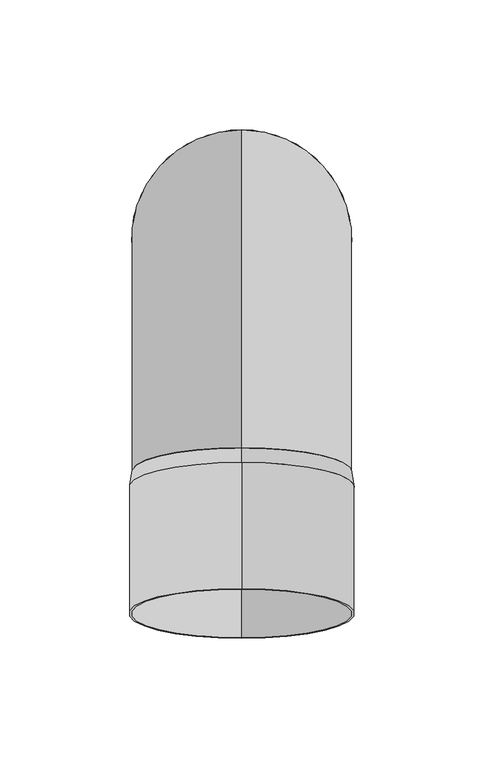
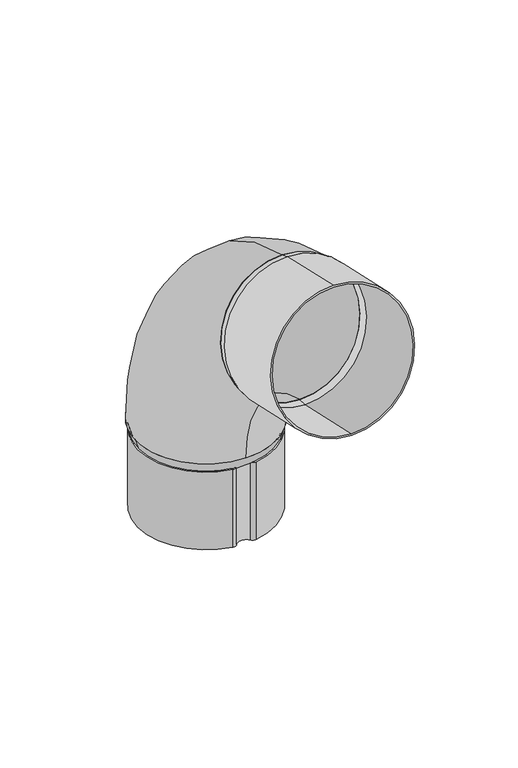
"""IFC4 building model written with IfcOpenShell, lengths in millimetres: proxy geometry, GROVIK_Downpipe_Elbow : N85_75°_Up."""

from ifc_helpers import new_model, si_unit, point, frame, frame_2d, origin, origin_with_axes, origin_2d, place, context, project, spatial, polyline, circle_curve, ellipse_curve, trimmed, segment, composite_curve, outline, extrude, source, transform, mapped, element, save
from ifc_brep_helpers import plane_surface, revolved_surface, advanced_brep


def generic_models_f47eed7d(model_context):
    return source(origin(), model_context, "Body", "SolidModel", [
        advanced_brep(
        [(0.0, 42.5, 0.0), (0.0, -42.5, 0.0), (0.0, 41.5, 0.0), (0.0, -41.5, 0.0), (0.0, -80.35, 153.6412298), (0.0, -99.05, 70.7237407), (0.0, -80.57, 152.6657299), (0.0, -98.83, 71.6992406)],
        [
            (0, 1, circle_curve(frame((0.0, 0.0, 0.0), z_axis=(0.0, 0.0, -1.0), x_axis=(0.0, -1.0, 0.0)), 42.5)),
            (1, 0, circle_curve(frame((0.0, 0.0, 0.0), z_axis=(0.0, 0.0, -1.0), x_axis=(0.0, -1.0, 0.0)), 42.5)),
            (2, 3, circle_curve(frame((0.0, 0.0, 0.0), z_axis=(0.0, 0.0, 1.0), x_axis=(0.0, -1.0, 0.0)), 41.5)),
            (3, 2, circle_curve(frame((0.0, 0.0, 0.0), z_axis=(0.0, 0.0, 1.0), x_axis=(0.0, -1.0, 0.0)), 41.5)),
            (4, 5, circle_curve(frame((0.0, -89.7, 112.1824853), z_axis=(0.0, -0.9754998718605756, 0.22000000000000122), x_axis=(0.0, -0.22000000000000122, -0.9754998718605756)), 42.5)),
            (5, 4, circle_curve(frame((0.0, -89.7, 112.1824853), z_axis=(0.0, -0.9754998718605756, 0.22000000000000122), x_axis=(0.0, -0.22000000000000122, -0.9754998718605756)), 42.5)),
            (6, 7, circle_curve(frame((0.0, -89.7, 112.1824853), z_axis=(0.0, 0.9754998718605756, -0.22000000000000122), x_axis=(0.0, -0.22000000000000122, -0.9754998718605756)), 41.5)),
            (7, 6, circle_curve(frame((0.0, -89.7, 112.1824853), z_axis=(0.0, 0.9754998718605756, -0.22000000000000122), x_axis=(0.0, -0.22000000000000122, -0.9754998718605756)), 41.5)),
            (7, 3, circle_curve(frame((0.0, -115.0, 0.0), z_axis=(-1.0, 0.0, 0.0), x_axis=(0.0, 1.0, 0.0)), 73.5)),
            (2, 6, circle_curve(frame((0.0, -115.0, 0.0), z_axis=(1.0, 0.0, 0.0), x_axis=(0.0, 1.0, 0.0)), 156.5)),
            (5, 1, circle_curve(frame((0.0, -115.0, 0.0), z_axis=(-1.0, 0.0, 0.0), x_axis=(0.0, 1.0, 0.0)), 72.5)),
            (0, 4, circle_curve(frame((0.0, -115.0, 0.0), z_axis=(1.0, 0.0, 0.0), x_axis=(0.0, 1.0, 0.0)), 157.5)),
        ],
        [
            plane_surface(frame((0.0, 0.0, 0.0), z_axis=(0.0, 0.0, -1.0), x_axis=(1.0, 0.0, 0.0))),
            plane_surface(frame((0.0, -89.7, 112.1824853), z_axis=(0.0, -0.9754998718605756, 0.22000000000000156), x_axis=(1.0, 0.0, 0.0))),
            revolved_surface(trimmed(ellipse_curve(frame((0.0, 0.0, 0.0), z_axis=(0.0, 0.0, 1.0), x_axis=(0.0, -1.0, 0.0)), 41.5, 41.5), [point((0.0, 41.5, 0.0))], [point((0.0, -41.5, 0.0))], True, "CARTESIAN"), (0.0, -115.0, 0.0), (1.0, 0.0, 0.0)),
            revolved_surface(trimmed(ellipse_curve(frame((0.0, 0.0, 0.0), z_axis=(0.0, 0.0, 1.0), x_axis=(0.0, -1.0, 0.0)), 41.5, 41.5), [point((0.0, -41.5, 0.0))], [point((0.0, 41.5, 0.0))], True, "CARTESIAN"), (0.0, -115.0, 0.0), (1.0, 0.0, 0.0)),
            revolved_surface(trimmed(ellipse_curve(frame((0.0, 0.0, 0.0), z_axis=(0.0, 0.0, -1.0), x_axis=(0.0, -1.0, 0.0)), 42.5, 42.5), [point((0.0, 42.5, 0.0))], [point((0.0, -42.5, 0.0))], True, "CARTESIAN"), (0.0, -115.0, 0.0), (1.0, 0.0, 0.0)),
            revolved_surface(trimmed(ellipse_curve(frame((0.0, 0.0, 0.0), z_axis=(0.0, 0.0, -1.0), x_axis=(0.0, -1.0, 0.0)), 42.5, 42.5), [point((0.0, -42.5, 0.0))], [point((0.0, 42.5, 0.0))], True, "CARTESIAN"), (0.0, -115.0, 0.0), (1.0, 0.0, 0.0)),
        ],
        [
            (0, [[1, 2], [3, 4]]),
            (1, [[5, 6], [7, 8]]),
            (2, [[9, -3, 10, -8]]),
            (3, [[-10, -4, -9, -7]]),
            (4, [[11, -1, 12, -6]]),
            (5, [[-12, -2, -11, -5]]),
        ],
    ),
        extrude(outline(composite_curve([segment(trimmed(circle_curve(origin_2d(), 43.5), [point((0.0, -43.5000001))], [point((0.0, 43.5))], False, "CARTESIAN"), True, "CONTINUOUS"), segment(trimmed(circle_curve(origin_2d(), 43.5), [point((0.0, 43.5))], [point((0.0, -43.5000001))], False, "CARTESIAN"), True, "CONTINUOUS")], self_intersect=False), holes=[composite_curve([segment(trimmed(circle_curve(origin_2d(), 42.5), [point((0.0, -42.5))], [point((0.0, 42.4999999))], True, "CARTESIAN"), True, "CONTINUOUS"), segment(trimmed(circle_curve(origin_2d(), 42.5), [point((0.0, 42.4999999))], [point((0.0, -42.5))], True, "CARTESIAN"), True, "CONTINUOUS")], self_intersect=False)]), frame((0.0, -95.5529992, 113.5024853), z_axis=(0.0, -0.975499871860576, 0.2199999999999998), x_axis=(1.0, 0.0, 0.0)), (0.0, 0.0, 1.0), 50.0),
        extrude(outline(composite_curve([segment(trimmed(circle_curve(frame_2d((-6.6504209, 37.8351931)), 3.0848069), [point((-7.1689075, 40.8761148))], [point((-4.2037022, 39.7139163))], False, "CARTESIAN"), True, "CONTINUOUS"), segment(trimmed(circle_curve(frame_2d((0.0, 42.9417465)), 5.3), [point((-4.2037022, 39.7139163))], [point((4.2058428, 39.716706))], True, "CARTESIAN"), True, "CONTINUOUS"), segment(trimmed(circle_curve(frame_2d((6.6465812, 37.8451476)), 3.0757007), [point((4.2058428, 39.716706))], [point((7.2, 40.8706496))], False, "CARTESIAN"), True, "CONTINUOUS"), segment(trimmed(circle_curve(origin_2d(), 41.5), [point((7.2, 40.8706496))], [point((7.2, -40.8706496))], False, "CARTESIAN"), True, "CONTINUOUS"), segment(trimmed(circle_curve(frame_2d((6.6465812, -37.8451476)), 3.0757007), [point((7.2, -40.8706496))], [point((4.2058428, -39.716706))], False, "CARTESIAN"), True, "CONTINUOUS"), segment(trimmed(circle_curve(frame_2d((0.0, -42.9417465)), 5.3), [point((4.2058428, -39.716706))], [point((-4.2037022, -39.7139163))], True, "CARTESIAN"), True, "CONTINUOUS"), segment(trimmed(circle_curve(frame_2d((-6.6504209, -37.8351931)), 3.0848069), [point((-4.2037022, -39.7139163))], [point((-7.1689075, -40.8761148))], False, "CARTESIAN"), True, "CONTINUOUS"), segment(trimmed(circle_curve(origin_2d(), 41.5), [point((-7.1689075, -40.8761148))], [point((-7.1689075, 40.8761148))], False, "CARTESIAN"), True, "CONTINUOUS")], self_intersect=False), holes=[composite_curve([segment(trimmed(circle_curve(origin_2d(), 40.5), [point((-6.9987091, 39.8907016))], [point((-6.9987091, -39.8907016))], True, "CARTESIAN"), True, "CONTINUOUS"), segment(trimmed(circle_curve(frame_2d((-6.6504209, -37.8351931)), 2.0848069), [point((-6.9987091, -39.8907016))], [point((-4.9968535, -39.1048917))], True, "CARTESIAN"), True, "CONTINUOUS"), segment(trimmed(circle_curve(frame_2d((0.0, -42.9417465)), 6.3), [point((-4.9968535, -39.1048917))], [point((4.999398, -39.1082078))], False, "CARTESIAN"), True, "CONTINUOUS"), segment(trimmed(circle_curve(frame_2d((6.6465812, -37.8451476)), 2.0757007), [point((4.999398, -39.1082078))], [point((6.9882501, -39.8925351))], True, "CARTESIAN"), True, "CONTINUOUS"), segment(trimmed(circle_curve(origin_2d(), 40.5), [point((6.9882501, -39.8925351))], [point((7.0229886, 39.8864342))], True, "CARTESIAN"), True, "CONTINUOUS"), segment(trimmed(circle_curve(frame_2d((6.6465812, 37.8451476)), 2.0757007), [point((7.0229886, 39.8864342))], [point((4.999398, 39.1082078))], True, "CARTESIAN"), True, "CONTINUOUS"), segment(trimmed(circle_curve(frame_2d((0.0, 42.9417465)), 6.3), [point((4.999398, 39.1082078))], [point((-4.9968535, 39.1048917))], False, "CARTESIAN"), True, "CONTINUOUS"), segment(trimmed(circle_curve(frame_2d((-6.6504209, 37.8351931)), 2.0848069), [point((-4.9968535, 39.1048917))], [point((-6.9987091, 39.8907016))], True, "CARTESIAN"), True, "CONTINUOUS")], self_intersect=False)]), frame((0.0, 0.0, -56.0), z_axis=(0.0, 0.0, 1.0), x_axis=(1.0, 0.0, 0.0)), (0.0, 0.0, 1.0), 50.0),
        advanced_brep(
        [(-40.7, 0.0, -6.0), (40.7, 0.0, -6.0), (-39.7, 0.0, -6.0), (39.7, 0.0, -6.0), (-42.5, 0.0, 0.0), (42.5, 0.0, 0.0), (41.5, 0.0, 0.0), (-41.5, 0.0, 0.0)],
        [
            (0, 1, circle_curve(frame((0.0, 0.0, -6.0), z_axis=(0.0, 0.0, -1.0), x_axis=(-1.0, 0.0, 0.0)), 40.7)),
            (1, 0, circle_curve(frame((0.0, 0.0, -6.0), z_axis=(0.0, 0.0, -1.0), x_axis=(1.0, 0.0, 0.0)), 40.7)),
            (2, 3, circle_curve(frame((0.0, 0.0, -6.0), z_axis=(0.0, 0.0, 1.0), x_axis=(1.0, 0.0, 0.0)), 39.7)),
            (3, 2, circle_curve(frame((0.0, 0.0, -6.0), z_axis=(0.0, 0.0, 1.0), x_axis=(-1.0, 0.0, 0.0)), 39.7)),
            (4, 5, circle_curve(origin_with_axes(), 42.5)),
            (5, 4, circle_curve(frame((0.0, 0.0, 0.0), z_axis=(0.0, 0.0, 1.0), x_axis=(-1.0, 0.0, 0.0)), 42.5)),
            (6, 7, circle_curve(frame((0.0, 0.0, 0.0), z_axis=(0.0, 0.0, -1.0), x_axis=(1.0, 0.0, 0.0)), 41.5)),
            (7, 6, circle_curve(frame((0.0, 0.0, 0.0), z_axis=(0.0, 0.0, -1.0), x_axis=(-1.0, 0.0, 0.0)), 41.5)),
            (1, 5),
            (4, 0),
            (6, 3),
            (2, 7),
        ],
        [
            plane_surface(frame((0.0, 0.0, -6.0), z_axis=(0.0, 0.0, -1.0), x_axis=(0.0, 1.0, 0.0))),
            plane_surface(frame((0.0, 0.0, 0.0), z_axis=(0.0, 0.0, 1.0), x_axis=(0.0, 1.0, 0.0))),
            revolved_surface(polyline([(40.70000000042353, 0.0, -6.0), (42.5, 0.0, 0.0)]), (0.0, 0.0, -141.6666667), (0.0, 0.0, 1.0)),
            revolved_surface(polyline([(-40.70000000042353, 0.0, -6.0), (-42.5, 0.0, 0.0)]), (0.0, 0.0, -141.6666667), (0.0, 0.0, 1.0)),
            revolved_surface(polyline([(41.5, 0.0, 0.0), (39.699999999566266, 0.0, -6.0)]), (0.0, 0.0, -138.3333333), (0.0, 0.0, 1.0)),
        ],
        [
            (0, [[1, 2], [3, 4]]),
            (1, [[5, 6], [7, 8]]),
            (2, [[-2, 9, -5, 10]]),
            (3, [[-1, -10, -6, -9]]),
            (4, [[11, -3, 12, -7]]),
            (4, [[-11, -8, -12, -4]]),
        ],
    ),
        advanced_brep(
        [(0.0, -99.05, 70.7237407), (0.0, -80.35, 153.6412298), (0.0, -98.83, 71.6992406), (0.0, -80.57, 152.6657299), (0.0, -105.1229992, 71.0682408), (0.0, -85.9829992, 155.9367297), (0.0, -86.2029992, 154.9612298), (0.0, -104.9029992, 72.0437407)],
        [
            (0, 1, circle_curve(frame((0.0, -89.7, 112.1824853), z_axis=(0.0, 0.9754998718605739, -0.2200000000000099), x_axis=(0.0, -0.22000000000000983, -0.9754998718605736)), 42.5)),
            (1, 0, circle_curve(frame((0.0, -89.7, 112.1824853), z_axis=(0.0, 0.9754998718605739, -0.2200000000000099), x_axis=(0.0, 0.22000000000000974, 0.9754998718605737)), 42.5)),
            (2, 3, circle_curve(frame((0.0, -89.7, 112.1824853), z_axis=(0.0, -0.9754998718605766, 0.2199999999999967), x_axis=(0.0, 0.21999999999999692, 0.9754998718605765)), 41.5)),
            (3, 2, circle_curve(frame((0.0, -89.7, 112.1824853), z_axis=(0.0, -0.9754998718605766, 0.2199999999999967), x_axis=(0.0, -0.2199999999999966, -0.9754998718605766)), 41.5)),
            (4, 5, circle_curve(frame((0.0, -95.5529992, 113.5024853), z_axis=(0.0, -0.9754998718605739, 0.2200000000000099), x_axis=(0.0, 0.22000000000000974, 0.9754998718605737)), 43.5)),
            (5, 4, circle_curve(frame((0.0, -95.5529992, 113.5024853), z_axis=(0.0, -0.9754998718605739, 0.2200000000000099), x_axis=(0.0, -0.22000000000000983, -0.9754998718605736)), 43.5)),
            (6, 7, circle_curve(frame((0.0, -95.5529992, 113.5024853), z_axis=(0.0, 0.9754998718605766, -0.2199999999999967), x_axis=(0.0, 0.21999999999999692, 0.9754998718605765)), 42.5)),
            (7, 6, circle_curve(frame((0.0, -95.5529992, 113.5024853), z_axis=(0.0, 0.9754998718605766, -0.2199999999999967), x_axis=(0.0, -0.2199999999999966, -0.9754998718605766)), 42.5)),
            (1, 5),
            (4, 0),
            (6, 3),
            (2, 7),
        ],
        [
            plane_surface(frame((0.0, -89.7, 112.1824853), z_axis=(0.0, 0.9754998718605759, -0.22000000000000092), x_axis=(-1.0, 0.0, 0.0))),
            plane_surface(frame((0.0, -95.5529992, 113.5024853), z_axis=(0.0, -0.9754998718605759, 0.22000000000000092), x_axis=(-1.0, 0.0, 0.0))),
            revolved_surface(polyline([(0.0, -80.34999999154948, 153.6412298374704), (0.0, -85.98299920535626, 155.93672970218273)]), (0.0, 159.0524673, 56.0824853), (0.0, -0.9754998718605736, 0.22000000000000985)),
            revolved_surface(polyline([(0.0, -99.05000000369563, 70.72374067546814), (0.0, -105.12299921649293, 71.06824080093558)]), (0.0, 159.0524673, 56.0824853), (0.0, -0.9754998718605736, 0.22000000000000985)),
            revolved_surface(polyline([(0.0, -86.20299921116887, 154.96122980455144), (0.0, -80.56999999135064, 152.6657299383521)]), (0.0, 153.1994681, 57.4024853), (0.0, -0.9754998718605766, 0.2199999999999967)),
        ],
        [
            (0, [[1, 2], [3, 4]]),
            (1, [[5, 6], [7, 8]]),
            (2, [[-2, 9, -5, 10]]),
            (3, [[-1, -10, -6, -9]]),
            (4, [[11, -3, 12, -7]]),
            (4, [[-11, -8, -12, -4]]),
        ],
    ),
    ])


if __name__ == "__main__":
    model = new_model("IFC4")
    model_context = context("Model", 3, world=origin())
    ifc_project = project(units=[si_unit("LENGTHUNIT", "METRE", prefix="MILLI")], contexts=[model_context])
    site = spatial("IfcSite", under=ifc_project)
    building = spatial("IfcBuilding", under=site)
    placement = place(None, origin())
    generic_models_shape = generic_models_f47eed7d(model_context)
    element("IfcBuildingElementProxy", 1, Name="GROVIK_Downpipe_Elbow : N85_75°_Up", ObjectType="GROVIK_Downpipe_Elbow : N85_75°_Up", at=placement, inside=building, context=model_context, shape_type="MappedRepresentation", body=[
        mapped(generic_models_shape, transform((0.0, 0.0, 0.0), x_axis=(1.0, 0.0, 0.0), y_axis=(0.0, 1.0, 0.0), z_axis=(0.0, 0.0, 1.0))),
    ])
    save(model, "model.ifc")
